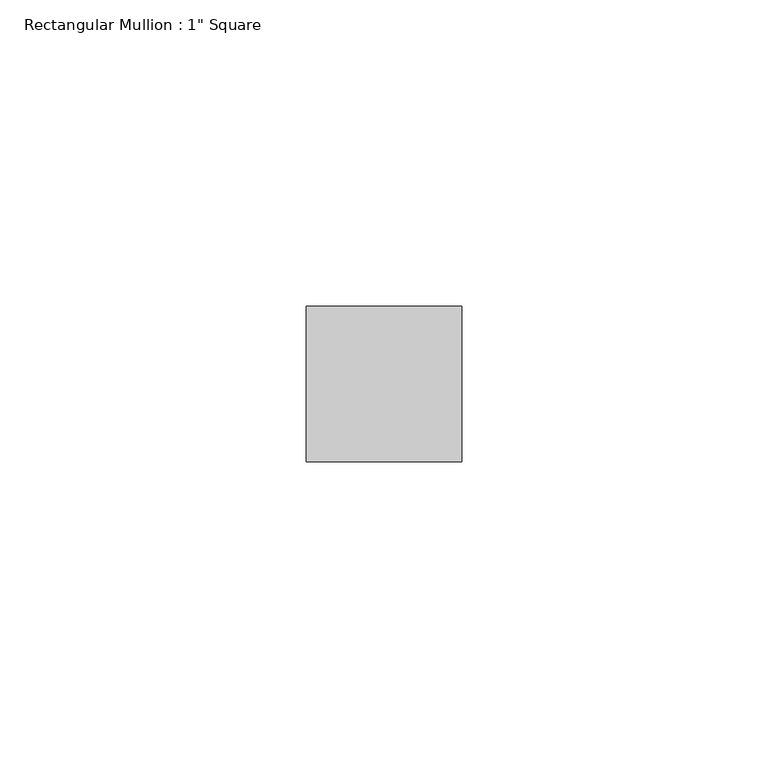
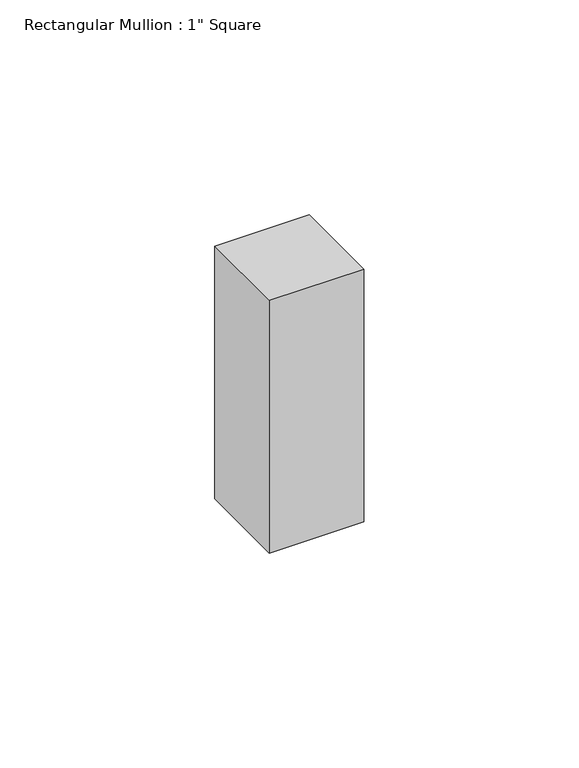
"""IFC4 building model written with IfcOpenShell, lengths in millimetres: member geometry."""

from ifc_helpers import new_model, si_unit, frame, origin, place, context, project, spatial, polyline, outline, extrude, source, transform, mapped, element, save


def member_955aa5bb(model_context):
    return source(origin(), model_context, "Body", "SweptSolid", [
        extrude(outline(polyline([(0.0, 12.7), (0.0, -12.7), (-25.4, -12.7), (-25.4, 12.7), (0.0, 12.7)])), frame((0.0, 0.0, -71.8239827), z_axis=(0.0, 0.0, 1.0), x_axis=(1.0, 0.0, 0.0)), (0.0, 0.0, 1.0), 71.8239827),
    ])


if __name__ == "__main__":
    model = new_model("IFC4")
    model_context = context("Model", 3, world=origin())
    ifc_project = project(units=[si_unit("LENGTHUNIT", "METRE", prefix="MILLI")], contexts=[model_context])
    site = spatial("IfcSite", under=ifc_project)
    building = spatial("IfcBuilding", under=site)
    placement = place(None, origin())
    member_shape = member_955aa5bb(model_context)
    element("IfcMember", 1, ObjectType="Rectangular Mullion : 1\" Square", at=placement, inside=building, context=model_context, shape_type="MappedRepresentation", body=[
        mapped(member_shape, transform((0.0, 0.0, 0.0), x_axis=(1.0, 0.0, 0.0), y_axis=(0.0, 1.0, 0.0), z_axis=(0.0, 0.0, 1.0))),
    ])
    save(model, "model.ifc")
